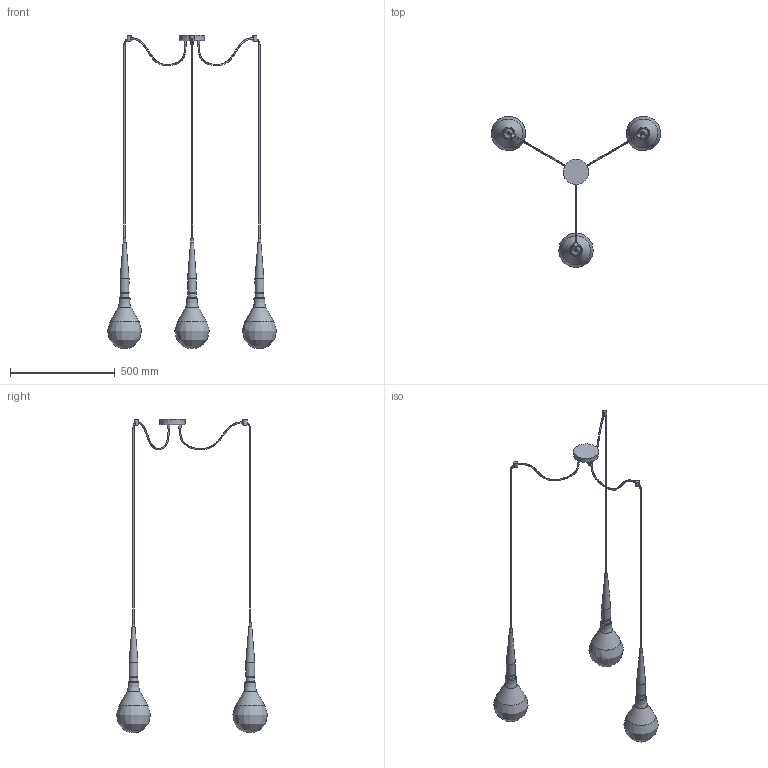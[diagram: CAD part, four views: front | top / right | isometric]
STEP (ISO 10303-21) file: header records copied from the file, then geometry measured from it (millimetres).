
FILE_DESCRIPTION(/* description */ (''),/* implementation_level */ '2;1');
FILE_NAME(/* name */ '1600_tripla',/* time_stamp */ '2021-03-15T11:41:41+01:00',/* author */ (''),/* organization */ (''),/* preprocessor_version */ 'ST-DEVELOPER v16.5',/* originating_system */ '',/* authorisation */ '');
FILE_SCHEMA (('CONFIG_CONTROL_DESIGN'));
Length unit declared in the file: millimetre
Products named in the file (1): Document
Bounding box: 805.28 x 720.1 x 1492.56 mm (x, y, z)
Volume: 12209121 mm3; surface area: 673080.6 mm2
Topology: 24 solids, 40 shells, 103 faces, 176 edges, 112 vertices
Faces by surface type: bspline 52, plane 39, cylinder 12
Full cylindrical faces by diameter (mm): 6 x8, 40 x4
Entity records: 8279 total; most frequent: CARTESIAN_POINT 6942, ORIENTED_EDGE 340, EDGE_CURVE 182, VERTEX_POINT 135, ADVANCED_FACE 103, FACE_OUTER_BOUND 103, EDGE_LOOP 103, DIRECTION 57
